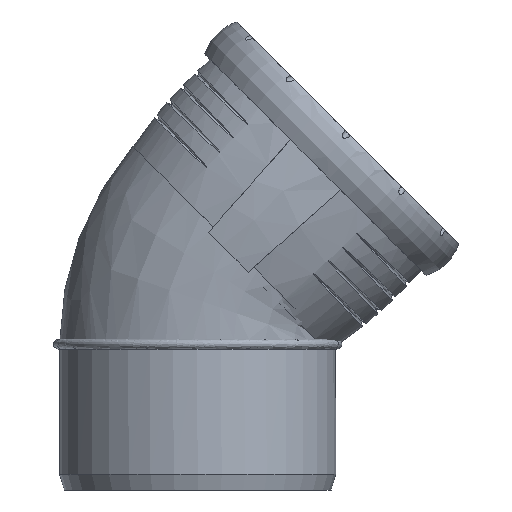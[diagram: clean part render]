
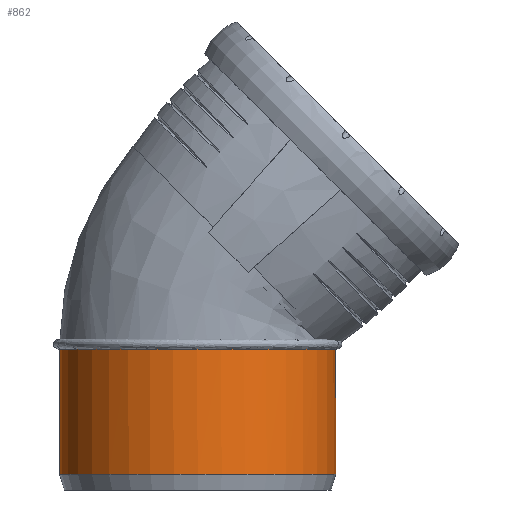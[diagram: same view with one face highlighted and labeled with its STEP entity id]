
A CAD part, front view. The second image highlights one B-rep face of the part: STEP entity #862.
In plain terms, the highlighted cylindrical face has radius 80.125 mm (diameter 160.25 mm), a full revolution.
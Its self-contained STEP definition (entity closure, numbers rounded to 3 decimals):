
#34=FACE_BOUND('',#144,.T.);
#61=CYLINDRICAL_SURFACE('',#927,80.125);
#91=FACE_OUTER_BOUND('',#143,.T.);
#143=EDGE_LOOP('',(#569,#570,#571,#572));
#144=EDGE_LOOP('',(#573));
#227=CIRCLE('',#917,80.125);
#232=CIRCLE('',#928,80.125);
#233=CIRCLE('',#929,80.125);
#234=CIRCLE('',#930,80.125);
#235=CIRCLE('',#931,80.125);
#335=VERTEX_POINT('',#1324);
#342=VERTEX_POINT('',#1403);
#345=VERTEX_POINT('',#1439);
#346=VERTEX_POINT('',#1441);
#347=VERTEX_POINT('',#1444);
#434=EDGE_CURVE('',#335,#342,#227,.T.);
#439=EDGE_CURVE('',#345,#335,#232,.T.);
#440=EDGE_CURVE('',#342,#346,#233,.T.);
#441=EDGE_CURVE('',#346,#345,#234,.T.);
#442=EDGE_CURVE('',#347,#347,#235,.T.);
#569=ORIENTED_EDGE('',*,*,#439,.T.);
#570=ORIENTED_EDGE('',*,*,#434,.T.);
#571=ORIENTED_EDGE('',*,*,#440,.T.);
#572=ORIENTED_EDGE('',*,*,#441,.T.);
#573=ORIENTED_EDGE('',*,*,#442,.F.);
#862=ADVANCED_FACE('',(#91,#34),#61,.T.);
#917=AXIS2_PLACEMENT_3D('',#1426,#1006,#1007);
#927=AXIS2_PLACEMENT_3D('',#1438,#1026,#1027);
#928=AXIS2_PLACEMENT_3D('',#1440,#1028,#1029);
#929=AXIS2_PLACEMENT_3D('',#1442,#1030,#1031);
#930=AXIS2_PLACEMENT_3D('',#1443,#1032,#1033);
#931=AXIS2_PLACEMENT_3D('',#1445,#1034,#1035);
#1006=DIRECTION('center_axis',(0.,0.,-1.));
#1007=DIRECTION('ref_axis',(1.,0.,0.));
#1026=DIRECTION('center_axis',(0.,0.,-1.));
#1027=DIRECTION('ref_axis',(0.,1.,0.));
#1028=DIRECTION('center_axis',(0.,0.,-1.));
#1029=DIRECTION('ref_axis',(1.,0.,0.));
#1030=DIRECTION('center_axis',(0.,0.,-1.));
#1031=DIRECTION('ref_axis',(1.,0.,0.));
#1032=DIRECTION('center_axis',(0.,0.,-1.));
#1033=DIRECTION('ref_axis',(1.,0.,0.));
#1034=DIRECTION('center_axis',(0.,0.,-1.));
#1035=DIRECTION('ref_axis',(1.,0.,0.));
#1324=CARTESIAN_POINT('',(78.769,14.68,81.6));
#1403=CARTESIAN_POINT('',(78.769,-14.68,81.6));
#1426=CARTESIAN_POINT('Origin',(0.,0.,81.6));
#1438=CARTESIAN_POINT('Origin',(0.,0.,45.3));
#1439=CARTESIAN_POINT('',(0.,80.125,81.6));
#1440=CARTESIAN_POINT('Origin',(0.,0.,81.6));
#1441=CARTESIAN_POINT('',(-80.125,0.,81.6));
#1442=CARTESIAN_POINT('Origin',(0.,0.,81.6));
#1443=CARTESIAN_POINT('Origin',(0.,0.,81.6));
#1444=CARTESIAN_POINT('',(0.,80.125,9.));
#1445=CARTESIAN_POINT('Origin',(0.,0.,9.));
